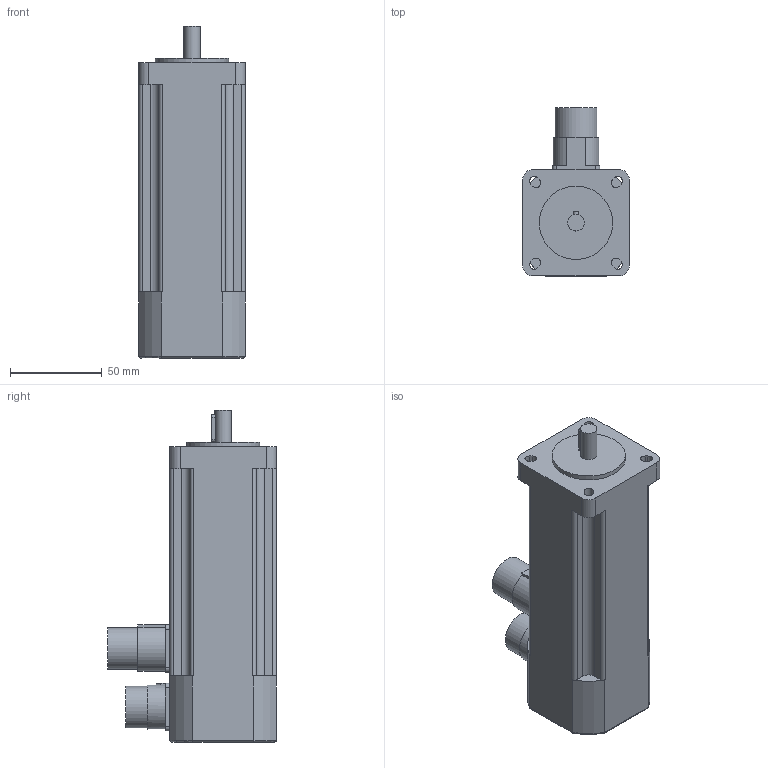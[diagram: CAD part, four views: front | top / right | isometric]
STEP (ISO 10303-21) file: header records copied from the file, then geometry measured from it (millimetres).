
FILE_DESCRIPTION(/* description */ (''),/* implementation_level */ '2;1');
FILE_NAME(/* name */ '\\Lafnas01\disegni\Archivi Lafert\3D\CAD 3D\MODELLI\Assiemi clienti\Serad\Modelli 3D Serad\B28I\Resolver\Res With Brake\B28D4Ixx4B050033.ipt.stp',/* time_stamp */ '2015-09-07T10:48:11+02:00',/* author */ ('Pastrello Ylenia'),/* organization */ (''),/* preprocessor_version */ 'ST-DEVELOPER v15.6',/* originating_system */ 'Autodesk Inventor 2015',/* authorisation */ '');
FILE_SCHEMA (('AUTOMOTIVE_DESIGN { 1 0 10303 214 3 1 1 }'));
Length unit declared in the file: millimetre
Products named in the file (1): B28D4Ixx4B050033
Bounding box: 58 x 92 x 181 mm (x, y, z)
Volume: 507963 mm3; surface area: 48093.5 mm2
Topology: 1 solids, 1 shells, 133 faces, 356 edges, 231 vertices
Faces by surface type: plane 71, cylinder 58, torus 4
Full cylindrical faces by diameter (mm): 9 x1, 22.7 x2, 24 x1, 40 x1
Entity records: 4247 total; most frequent: CARTESIAN_POINT 847, DIRECTION 719, ORIENTED_EDGE 696, EDGE_CURVE 347, AXIS2_PLACEMENT_3D 250, VERTEX_POINT 228, LINE 219, VECTOR 219
